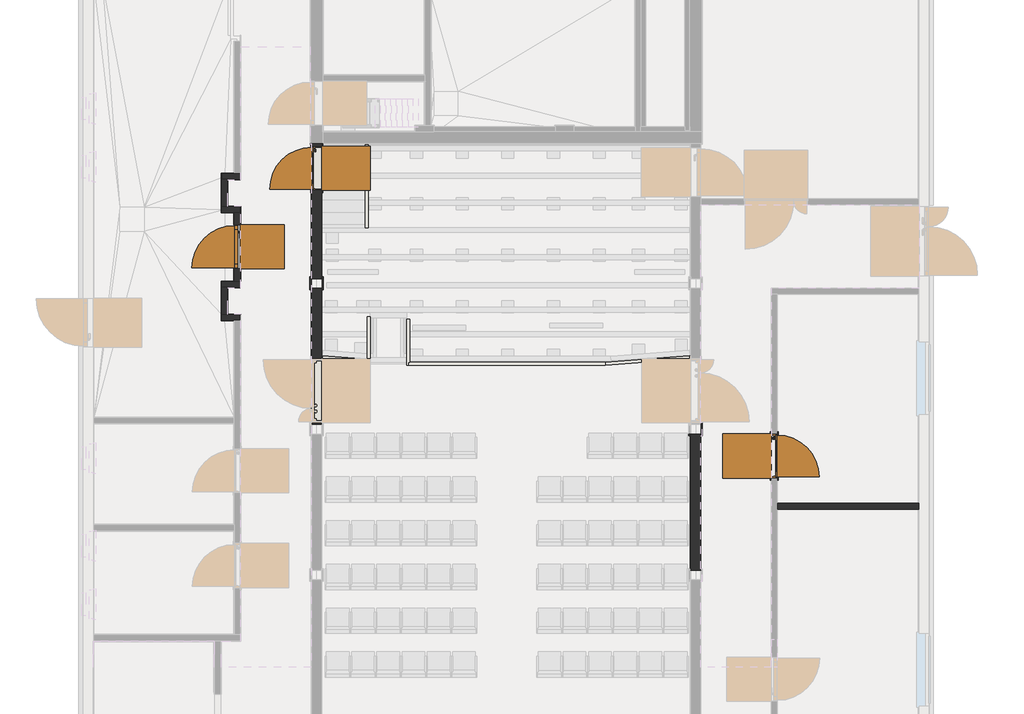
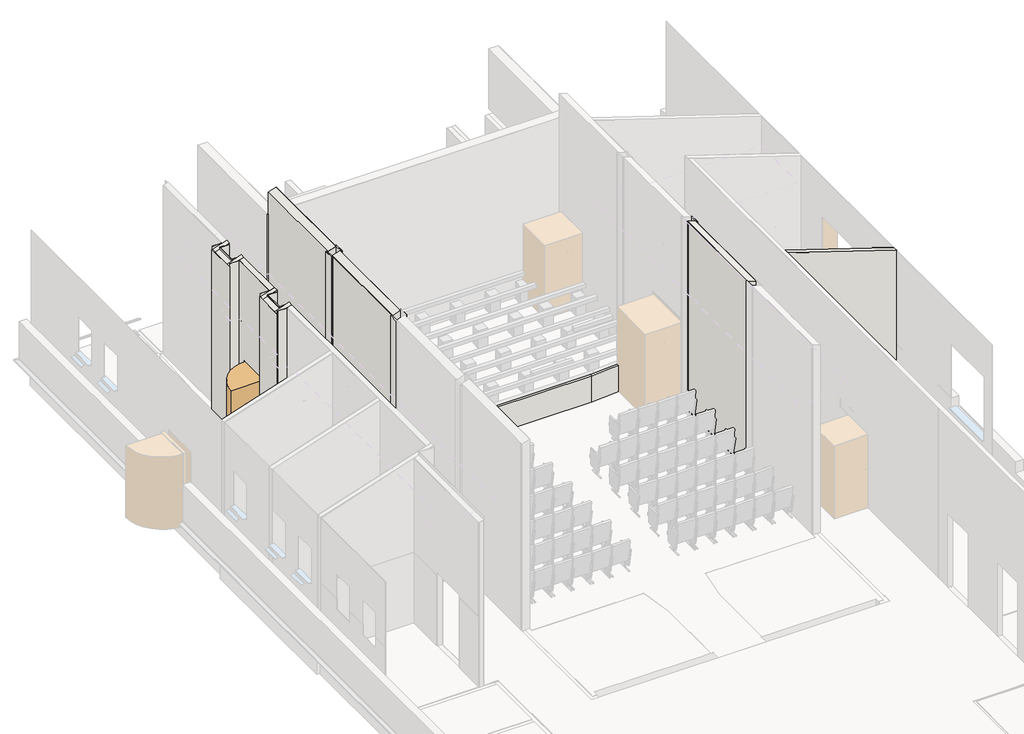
# One storey, part 7 of 12: 62 walls, 3 doors.
"""IFC4 building model written with IfcOpenShell, lengths in millimetres."""

from ifc_helpers import new_model, si_unit, frame, origin, origin_with_axes, place, context, project, spatial, polyline, outline, extrude, faceted_brep, transform, mapped, element, save
from components import door_dd1247db, door_42d30af5, door_3526fbcb

model = new_model("IFC4")

# Units and contexts
model_context = context("Model", 3, world=origin())
ifc_project = project(units=[si_unit("LENGTHUNIT", "METRE", prefix="MILLI")], contexts=[model_context])

# Site, building, storey
site = spatial("IfcSite", under=ifc_project)
building = spatial("IfcBuilding", under=site)
storey = spatial("IfcBuildingStorey", under=building, Name="Этаж 01", Elevation=0.0)

# Doors
placement = place(None, origin())
door_shape = door_dd1247db(model_context)
element("IfcDoor", 1, ObjectType="Дверь_Противопожарная_Металлическая_Однопольная_Глухая : 910 х 2100(h)_Пр_EI30", at=placement, inside=storey, context=model_context, shape_type="MappedRepresentation", body=[
    mapped(door_shape, transform((2865.2572865, 21754.92, 0.0), x_axis=(0.0, 1.0, 0.0), y_axis=(-1.0, 0.0, 0.0), z_axis=(0.0, 0.0, 1.0))),
])
door_2_shape = door_42d30af5(model_context)
element("IfcDoor", 2, ObjectType="Дверь_Деревянная_Внутренняя_Однопольная_ГОСТ_475-2016 : 0910 х 2070(h)_Пр_с Порогом", at=placement, inside=storey, context=model_context, shape_type="MappedRepresentation", body=[
    mapped(door_2_shape, transform((4496.8880762, 23370.0, 0.0), x_axis=(0.0, 1.0, 0.0), y_axis=(-1.0, 0.0, 0.0), z_axis=(0.0, 0.0, 1.0))),
])
door_3_shape = door_3526fbcb(model_context)
element("IfcDoor", 3, ObjectType="Дверь_Деревянная_Внутренняя_Однопольная_ГОСТ_475-2016 : 0910 х 2070(h)_Л_с Порогом", at=placement, inside=storey, context=model_context, shape_type="MappedRepresentation", body=[
    mapped(door_3_shape, transform((13920.675, 17449.9313142, 0.0), x_axis=(0.0, -1.0, 0.0), y_axis=(1.0, 0.0, 0.0), z_axis=(0.0, 0.0, 1.0))),
])

# Walls
element("IfcWall", 4, ObjectType="ADSK_Внутренняя_Кирпич_120", at=placement, inside=storey, context=model_context, shape_type="Brep", body=[
    faceted_brep([(2545.2572925, 20359.9176368, -25.0), (2545.2572925, 20359.9176368, 4707.6332555), (2665.2572925, 20359.9176368, 4746.6245521), (2925.2572865, 20359.9176368, 4831.1056928), (2925.2572865, 20359.9176368, -20.0), (2665.2572925, 20359.9176368, -20.0), (2605.2572925, 20359.9176368, -20.0), (2605.2572925, 20359.9176368, -25.0), (2545.2572925, 20239.9176368, 4707.6332555), (2545.2572925, 20239.9176368, -21.1091206), (2545.2572925, 20239.9176368, -25.0), (2805.2572865, 20239.9176368, -25.0), (2865.2572865, 20239.9176368, -25.0), (2865.2572865, 20239.9176368, -20.0), (2925.2572865, 20239.9176368, -20.0), (2925.2572865, 20239.9176368, 4831.1056928), (2805.2572865, 20239.9176368, 4792.1143962), (2605.2572925, 20299.9176368, -25.0), (2865.2572865, 20299.9176368, -25.0), (2865.2572865, 20299.9176368, -20.0), (2605.2572925, 20299.9176368, -20.0)], [[[0, 1, 2, 3, 4, 5, 6, 7]], [[8, 9, 10, 11, 12, 13, 14, 15, 16]], [[10, 0, 7, 17, 18, 12, 11]], [[3, 15, 14, 4]], [[1, 0, 10, 9, 8]], [[3, 2, 1, 8, 16, 15]], [[19, 20, 6, 5, 4, 14, 13]], [[19, 13, 12, 18]], [[20, 19, 18, 17]], [[6, 20, 17, 7]]]),
])
element("IfcWall", 5, ObjectType="ADSK_Внутренняя_Кирпич_120", at=placement, inside=storey, context=model_context, shape_type="Brep", body=[
    faceted_brep([(2665.2572925, 20359.9176368, -25.0), (2665.2572925, 20919.9176368, -25.0), (2665.2572925, 20919.9176368, -20.0), (2665.2572925, 20919.9176368, 4746.6245521), (2665.2572925, 20359.9176368, 4746.6245521), (2665.2572925, 20359.9176368, -20.0), (2545.2572925, 20359.9176368, -25.0), (2545.2572925, 20359.9176368, 4707.6332555), (2545.2572925, 20919.9176368, 4707.6332555), (2545.2572925, 20919.9176368, -25.0), (2605.2572925, 20359.9176368, -25.0), (2605.2572925, 20919.9176368, -25.0)], [[[0, 1, 2, 3, 4, 5]], [[6, 7, 8, 9]], [[1, 0, 10, 6, 9, 11]], [[0, 5, 4, 7, 6, 10]], [[3, 2, 1, 11, 9, 8]], [[4, 3, 8, 7]]]),
])
element("IfcWall", 6, ObjectType="ADSK_Внутренняя_Кирпич_120", at=placement, inside=storey, context=model_context, shape_type="Brep", body=[
    faceted_brep([(2545.2572925, 20919.9176368, 4707.6332555), (2545.2572925, 20919.9176368, -25.0), (2605.2572925, 20919.9176368, -25.0), (2605.2572925, 20919.9176368, -20.0), (2665.2572925, 20919.9176368, -20.0), (2925.2572865, 20919.9176368, -20.0), (2925.2572865, 20919.9176368, 4831.1056928), (2665.2572925, 20919.9176368, 4746.6245521), (2545.2572925, 21039.9176368, -25.0), (2545.2572925, 21039.9176368, -20.9060519), (2545.2572925, 21039.9176368, 4707.6332555), (2805.2572865, 21039.9176368, 4792.1143962), (2925.2572865, 21039.9176368, 4831.1056928), (2925.2572865, 21039.9176368, -20.0), (2865.2572865, 21039.9176368, -20.0), (2865.2572865, 21039.9176368, -25.0), (2805.2572865, 21039.9176368, -25.0), (2865.2572865, 20979.9176368, -25.0), (2605.2572925, 20979.9176368, -25.0), (2605.2572925, 20979.9176368, -20.0), (2865.2572865, 20979.9176368, -20.0)], [[[0, 1, 2, 3, 4, 5, 6, 7]], [[8, 9, 10, 11, 12, 13, 14, 15, 16]], [[1, 8, 16, 15, 17, 18, 2]], [[1, 0, 10, 9, 8]], [[12, 6, 5, 13]], [[0, 7, 6, 12, 11, 10]], [[19, 20, 14, 13, 5, 4, 3]], [[19, 3, 2, 18]], [[20, 19, 18, 17]], [[14, 20, 17, 15]]]),
])
element("IfcWall", 7, ObjectType="ADSK_Внутренняя_Кирпич_120", at=placement, inside=storey, context=model_context, shape_type="Brep", body=[
    faceted_brep([(2925.2572865, 21039.9176368, -25.0), (2925.2572865, 22459.9176629, -25.0), (2925.2572865, 22459.9176629, -20.0), (2925.2572865, 22459.9176629, 4831.1056928), (2925.2572865, 21039.9176368, 4831.1056928), (2925.2572865, 21039.9176368, -20.0), (2925.2572865, 21299.92, 2100.0), (2925.2572865, 22209.92, 2100.0), (2925.2572865, 22209.92, 0.0), (2925.2572865, 21299.92, 0.0), (2805.2572865, 22459.9176629, -25.0), (2805.2572865, 21039.9176368, -25.0), (2805.2572865, 21039.9176368, 0.0), (2805.2572865, 21039.9176368, 4792.1143962), (2805.2572865, 22459.9176629, 4792.1143962), (2805.2572865, 22459.9176629, 0.0), (2805.2572865, 22209.92, 2100.0), (2805.2572865, 21299.92, 2100.0), (2805.2572865, 21299.92, 0.0), (2805.2572865, 22209.92, 0.0), (2865.2572865, 21039.9176368, -25.0), (2865.2572865, 22459.9176629, -25.0)], [[[0, 1, 2, 3, 4, 5], [6, 7, 8, 9]], [[10, 11, 12, 13, 14, 15], [16, 17, 18, 19]], [[1, 0, 20, 11, 10, 21]], [[0, 5, 4, 13, 12, 11, 20]], [[3, 2, 1, 21, 10, 15, 14]], [[16, 7, 6, 17]], [[18, 9, 8, 19]], [[17, 6, 9, 18]], [[7, 16, 19, 8]], [[4, 3, 14, 13]]]),
])
element("IfcWall", 8, ObjectType="ADSK_Внутренняя_Кирпич_120", at=placement, inside=storey, context=model_context, shape_type="Brep", body=[
    faceted_brep([(2545.2572925, 22579.9176629, -25.0), (2545.2572925, 22579.9176629, 4707.6332555), (2665.2572925, 22579.9176629, 4746.6245521), (2925.2572865, 22579.9176629, 4831.1056928), (2925.2572865, 22579.9176629, -20.0), (2665.2572925, 22579.9176629, -20.0), (2605.2572925, 22579.9176629, -20.0), (2605.2572925, 22579.9176629, -25.0), (2545.2572925, 22459.9176629, 4707.6332555), (2545.2572925, 22459.9176629, -20.9060519), (2545.2572925, 22459.9176629, -25.0), (2805.2572865, 22459.9176629, -25.0), (2865.2572865, 22459.9176629, -25.0), (2865.2572865, 22459.9176629, -20.0), (2925.2572865, 22459.9176629, -20.0), (2925.2572865, 22459.9176629, 4831.1056928), (2805.2572865, 22459.9176629, 4792.1143962), (2605.2572925, 22519.9176629, -25.0), (2865.2572865, 22519.9176629, -25.0), (2865.2572865, 22519.9176629, -20.0), (2605.2572925, 22519.9176629, -20.0)], [[[0, 1, 2, 3, 4, 5, 6, 7]], [[8, 9, 10, 11, 12, 13, 14, 15, 16]], [[10, 0, 7, 17, 18, 12, 11]], [[3, 15, 14, 4]], [[1, 0, 10, 9, 8]], [[3, 2, 1, 8, 16, 15]], [[19, 20, 6, 5, 4, 14, 13]], [[19, 13, 12, 18]], [[20, 19, 18, 17]], [[6, 20, 17, 7]]]),
])
element("IfcWall", 9, ObjectType="ADSK_Внутренняя_Кирпич_120", at=placement, inside=storey, context=model_context, shape_type="Brep", body=[
    faceted_brep([(2665.2572925, 22579.9176629, -25.0), (2665.2572925, 23139.9176524, -25.0), (2665.2572925, 23139.9176524, -20.0), (2665.2572925, 23139.9176524, 4746.6245521), (2665.2572925, 22579.9176629, 4746.6245521), (2665.2572925, 22579.9176629, -20.0), (2545.2572925, 22579.9176629, -25.0), (2545.2572925, 22579.9176629, 4707.6332555), (2545.2572925, 23139.9176524, 4707.6332555), (2545.2572925, 23139.9176524, -25.0), (2605.2572925, 22579.9176629, -25.0), (2605.2572925, 23139.9176524, -25.0)], [[[0, 1, 2, 3, 4, 5]], [[6, 7, 8, 9]], [[1, 0, 10, 6, 9, 11]], [[0, 5, 4, 7, 6, 10]], [[3, 2, 1, 11, 9, 8]], [[4, 3, 8, 7]]]),
])
element("IfcWall", 10, ObjectType="ADSK_Внутренняя_Кирпич_120", at=placement, inside=storey, context=model_context, shape_type="Brep", body=[
    faceted_brep([(2545.2572925, 23139.9176524, 4707.6332555), (2545.2572925, 23139.9176524, -25.0), (2605.2572925, 23139.9176524, -25.0), (2605.2572925, 23139.9176524, -20.0), (2665.2572925, 23139.9176524, -20.0), (2925.2572865, 23139.9176524, -20.0), (2925.2572865, 23139.9176524, 4831.1056928), (2665.2572925, 23139.9176524, 4746.6245521), (2545.2572925, 23259.9176524, -25.0), (2545.2572925, 23259.9176524, -20.9643333), (2545.2572925, 23259.9176524, 4707.6332555), (2805.2572865, 23259.9176524, 4792.1143962), (2925.2572865, 23259.9176524, 4831.1056928), (2925.2572865, 23259.9176524, -20.0), (2865.2572865, 23259.9176524, -20.0), (2865.2572865, 23259.9176524, -25.0), (2805.2572865, 23259.9176524, -25.0), (2865.2572865, 23199.9176524, -25.0), (2605.2572925, 23199.9176524, -25.0), (2605.2572925, 23199.9176524, -20.0), (2865.2572865, 23199.9176524, -20.0)], [[[0, 1, 2, 3, 4, 5, 6, 7]], [[8, 9, 10, 11, 12, 13, 14, 15, 16]], [[1, 8, 16, 15, 17, 18, 2]], [[1, 0, 10, 9, 8]], [[12, 6, 5, 13]], [[0, 7, 6, 12, 11, 10]], [[19, 20, 14, 13, 5, 4, 3]], [[19, 3, 2, 18]], [[20, 19, 18, 17]], [[14, 20, 17, 15]]]),
])
element("IfcWall", 11, ObjectType="Перегородка-КНАУФ-С362-Применение внутри здания-125/75@600 ГВЛ(ГВЛВ)  12,5", at=placement, inside=storey, context=model_context, shape_type="Brep", body=[
    faceted_brep([(16900.0, 16349.9313142, 3848.1164919), (13980.0, 16349.9313142, 4796.9047088), (13980.0, 16349.9313142, -3.0), (16885.0, 16349.9313142, -3.0), (16885.0, 16349.9313142, 100.0), (16899.0, 16349.9313142, 100.0), (16900.0, 16349.9313142, 100.0), (13980.0, 16474.9313142, 4796.9047088), (16900.0, 16474.9313142, 3848.1164919), (16900.0, 16474.9313142, 100.0), (16885.0, 16474.9313142, 100.0), (16885.0, 16474.9313142, -3.0), (13980.0, 16474.9313142, -3.0)], [[[0, 1, 2, 3, 4, 5, 6]], [[7, 8, 9, 10, 11, 12]], [[1, 7, 12, 2]], [[4, 3, 11, 10]], [[1, 0, 8, 7]], [[3, 2, 12, 11]], [[8, 0, 6, 9]], [[6, 5, 4, 10, 9]]]),
])
element("IfcWall", 12, ObjectType="Перегородка-КНАУФ-С365-Применение внутри здания-200/75@600 ГВЛ(ГВЛВ)  12,5", at=placement, inside=storey, context=model_context, shape_type="Brep", body=[
    faceted_brep([(4395.0630762, 23875.0, -20.0), (4395.0630762, 21100.0, -20.0), (4395.0630762, 21100.0, 5308.6859716), (4395.0630762, 21132.75, 5308.6859716), (4395.0630762, 23875.0, 5308.6859716), (4395.0630762, 23875.0, 0.0), (4395.0630762, 23825.0, 0.0), (4395.0630762, 23825.0, 2070.0), (4395.0630762, 22915.0, 2070.0), (4395.0630762, 22915.0, 0.0), (4605.0630762, 21100.0, -20.0), (4605.0630762, 23875.0, -20.0), (4605.0630762, 23875.0, 5376.9207407), (4605.0630762, 23870.0, 5376.9207407), (4605.0630762, 21132.75, 5376.9207407), (4605.0630762, 21100.0, 5376.9207407), (4605.0630762, 23825.0, 2070.0), (4605.0630762, 23825.0, 0.0), (4605.0630762, 22915.0, 0.0), (4605.0630762, 22915.0, 2070.0)], [[[0, 1, 2, 3, 4, 5], [6, 7, 8, 9]], [[10, 11, 12, 13, 14, 15], [16, 17, 18, 19]], [[1, 0, 11, 10]], [[2, 1, 10, 15]], [[0, 5, 4, 12, 11]], [[6, 17, 16, 7]], [[7, 16, 19, 8]], [[8, 19, 18, 9]], [[17, 6, 9, 18]], [[4, 3, 2, 15, 14, 13, 12]]]),
])
element("IfcWall", 13, ObjectType="Перегородка-КНАУФ-С365-Применение внутри здания-200/75@600 ГВЛ(ГВЛВ)  12,5", at=placement, inside=storey, context=model_context, shape_type="Brep", body=[
    faceted_brep([(4395.0630762, 20900.0, -20.0), (4395.0630762, 18100.0, -20.0), (4395.0630762, 18100.0, 5308.6859716), (4395.0630762, 20900.0, 5308.6859716), (4395.0630762, 18137.3933894, 2370.0), (4395.0630762, 18137.3933894, 0.0), (4395.0630762, 19447.3933894, 0.0), (4395.0630762, 19447.3933894, 2370.0), (4605.0630762, 18100.0, -20.0), (4605.0630762, 19447.0274627, -20.0), (4605.0630762, 19507.1879309, -20.0), (4605.0630762, 20900.0, -20.0), (4605.0630762, 20900.0, 5376.9207407), (4605.0630762, 20866.75, 5376.9207407), (4605.0630762, 18132.5, 5376.9207407), (4605.0630762, 18100.0, 5376.9207407), (4605.0630762, 18137.3933894, 0.0), (4605.0630762, 18137.3933894, 2370.0), (4605.0630762, 19447.3933894, 2370.0), (4605.0630762, 19447.3933894, 0.0)], [[[0, 1, 2, 3], [4, 5, 6, 7]], [[8, 9, 10, 11, 12, 13, 14, 15], [16, 17, 18, 19]], [[1, 0, 11, 10, 9, 8]], [[2, 1, 8, 15]], [[0, 3, 12, 11]], [[16, 5, 4, 17]], [[17, 4, 7, 18]], [[18, 7, 6, 19]], [[5, 16, 19, 6]], [[3, 2, 15, 14, 13, 12]]]),
])
element("IfcWall", 14, ObjectType="Перегородка-КНАУФ-С365-Применение внутри здания-200/75@600 ГВЛ(ГВЛВ)  12,5", at=placement, inside=storey, context=model_context, shape_type="SweptSolid", body=[
    extrude(outline(polyline([(5376.9002455, 12195.0), (-20.0, 12195.0), (-20.0, 12405.0), (5308.6654765, 12405.0), (5376.9002455, 12195.0)])), frame((0.0, 15100.0, 0.0), z_axis=(0.0, 1.0, 0.0), x_axis=(0.0, 0.0, 1.0)), (0.0, 0.0, 1.0), 2800.0),
])
element("IfcWall", 15, ObjectType="Брус 60 х 75", at=placement, inside=storey, context=model_context, shape_type="Brep", body=[
    faceted_brep([(4605.0630762, 19447.0274627, -20.0), (5604.6696214, 19373.8709302, -20.0), (5604.6696214, 19373.8709302, 740.0), (4605.0630762, 19447.0274627, 740.0), (4605.0630762, 19507.1879309, -20.0), (4605.0630762, 19507.1879309, 740.0), (5544.6696214, 19438.422518, 740.0), (5604.6696214, 19434.0313984, 740.0), (5604.6696214, 19434.0313984, -20.0), (5544.6696214, 19438.422518, -20.0)], [[[0, 1, 2, 3]], [[4, 5, 6, 7, 8, 9]], [[1, 0, 4, 9, 8]], [[3, 2, 7, 6, 5]], [[0, 3, 5, 4]], [[2, 1, 8, 7]]]),
])
element("IfcWall", 16, ObjectType="Брус 60 х 75", at=placement, inside=storey, context=model_context, shape_type="SweptSolid", body=[
    extrude(outline(polyline([(5604.6696214, 20319.6150334), (5604.6696214, 19434.0313984), (5544.6696214, 19438.422518), (5544.6696214, 20319.6150334), (5604.6696214, 20319.6150334)])), frame((0.0, 0.0, -20.0), z_axis=(0.0, 0.0, 1.0), x_axis=(1.0, 0.0, 0.0)), (0.0, 0.0, 1.0), 760.0),
])
element("IfcWall", 17, ObjectType="Брус 60 х 75", at=placement, inside=storey, context=model_context, shape_type="SweptSolid", body=[
    extrude(outline(polyline([(6355.0633878, 19320.0001181), (6355.0633878, 20259.6150334), (6415.0633878, 20259.6150334), (6415.0633878, 19380.0001181), (6385.0633878, 19380.0001181), (6385.0633878, 19320.0001181), (6355.0633878, 19320.0001181)])), frame((0.0, 0.0, -20.0), z_axis=(0.0, 0.0, 1.0), x_axis=(1.0, 0.0, 0.0)), (0.0, 0.0, 1.0), 760.0),
])
element("IfcWall", 18, ObjectType="Брус 60 х 75", at=placement, inside=storey, context=model_context, shape_type="Brep", body=[
    faceted_brep([(6385.0633878, 19320.0001181, -20.0), (10445.0633878, 19320.0001181, -20.0), (10445.0633878, 19320.0001181, 0.0), (10444.7461218, 19320.0001181, 0.0), (10444.7461218, 19320.0001181, 740.0), (6385.0633878, 19320.0001181, 740.0), (10445.0633878, 19380.0001181, -20.0), (6415.0633878, 19380.0001181, -20.0), (6385.0633878, 19380.0001181, -20.0), (6385.0633878, 19380.0001181, 740.0), (6415.0633878, 19380.0001181, 740.0), (10445.0633878, 19380.0001181, 740.0), (10445.0633878, 19379.0003016, 740.0), (10445.0633878, 19379.0003016, 0.0), (10440.4000484, 19378.6547669, 740.0), (10440.4000484, 19378.6547669, 0.0)], [[[0, 1, 2, 3, 4, 5]], [[6, 7, 8, 9, 10, 11]], [[1, 0, 8, 7, 6]], [[6, 11, 12, 13, 2, 1]], [[11, 10, 9, 5, 4, 14, 12]], [[0, 5, 9, 8]], [[14, 15, 13, 12]], [[13, 15, 3, 2]], [[15, 14, 4, 3]]]),
])
element("IfcWall", 19, ObjectType="Брус 60 х 75", at=placement, inside=storey, context=model_context, shape_type="Brep", body=[
    faceted_brep([(10444.8336528, 19318.8187982, 0.0), (12185.0630762, 19447.7627939, 0.0), (12185.0630762, 19447.7627939, 740.0), (10444.8336528, 19318.8187982, 740.0), (10440.4000484, 19378.6547669, 0.0), (10440.4000484, 19378.6547669, 740.0), (10445.0633878, 19379.0003016, 740.0), (12180.6294718, 19507.5987626, 740.0), (12180.6294718, 19507.5987626, 0.0), (10445.0633878, 19379.0003016, 0.0), (10444.7461218, 19320.0001181, 0.0), (10444.7461218, 19320.0001181, 740.0)], [[[0, 1, 2, 3]], [[4, 5, 6, 7, 8, 9]], [[1, 0, 10, 4, 9, 8]], [[2, 1, 8, 7]], [[3, 2, 7, 6, 5, 11]], [[0, 3, 11, 5, 4, 10]]]),
])
element("IfcWall", 20, ObjectType="Брус 60 х 75", at=placement, inside=storey, context=model_context, shape_type="Brep", body=[
    faceted_brep([(5505.0, 23875.0, -20.0), (5505.0, 22150.0, -20.0), (5505.0, 22150.0, 740.0), (5505.0, 22210.0, 740.0), (5505.0, 23875.0, 740.0), (5565.0, 22150.0, -20.0), (5565.0, 23875.0, -20.0), (5565.0, 23875.0, 740.0), (5565.0, 22150.0, 740.0)], [[[0, 1, 2, 3, 4]], [[5, 6, 7, 8]], [[1, 0, 6, 5]], [[1, 5, 8, 2]], [[6, 0, 4, 7]], [[3, 2, 8, 7, 4]]]),
])
element("IfcWall", 21, ObjectType="Отделка - Акриловая покраска_1 мм_Улучш. штук. по кирп._9 мм", at=placement, inside=storey, context=model_context, shape_type="Brep", body=[
    faceted_brep([(2545.2572925, 20229.9176368, 0.0), (2545.2572925, 20239.9176368, 0.0), (2545.2572925, 21039.9176368, 0.0), (2545.2572925, 21049.9176368, 0.0), (2545.2572925, 21049.9176368, 4707.6332555), (2545.2572925, 20229.9176368, 4707.6332555), (2535.2572925, 20229.9176368, 0.0), (2535.2572925, 20229.9176368, 4704.3839808), (2535.2572925, 21049.9176368, 4704.3839808), (2535.2572925, 21049.9176368, 0.0)], [[[0, 1, 2, 3, 4, 5]], [[6, 7, 8, 9]], [[3, 2, 1, 0, 6, 9]], [[4, 3, 9, 8]], [[0, 5, 7, 6]], [[5, 4, 8, 7]]]),
])
element("IfcWall", 22, ObjectType="Отделка - Акриловая покраска_1 мм_Улучш. штук. по кирп._9 мм", at=placement, inside=storey, context=model_context, shape_type="Brep", body=[
    faceted_brep([(2545.2572925, 22449.9176629, 0.0), (2545.2572925, 22459.9176629, 0.0), (2545.2572925, 23259.9176524, 0.0), (2545.2572925, 23269.9176524, 0.0), (2545.2572925, 23269.9176524, 4707.6332555), (2545.2572925, 22449.9176629, 4707.6332555), (2535.2572925, 22449.9176629, 0.0), (2535.2572925, 22449.9176629, 4704.3839808), (2535.2572925, 23269.9176524, 4704.3839808), (2535.2572925, 23269.9176524, 0.0)], [[[0, 1, 2, 3, 4, 5]], [[6, 7, 8, 9]], [[3, 2, 1, 0, 6, 9]], [[4, 3, 9, 8]], [[0, 5, 7, 6]], [[5, 4, 8, 7]]]),
])
element("IfcWall", 23, ObjectType="Отделка - Акриловая покраска_1 мм_Улучш. штук. по кирп._9 мм", at=placement, inside=storey, context=model_context, shape_type="Brep", body=[
    faceted_brep([(2805.2572865, 22459.9176629, 4792.1143962), (2805.2572865, 21039.9176368, 4792.1143962), (2805.2572865, 21039.9176368, 0.0), (2805.2572865, 21299.92, 0.0), (2805.2572865, 21299.92, 2100.0), (2805.2572865, 22209.92, 2100.0), (2805.2572865, 22209.92, 0.0), (2805.2572865, 22459.9176629, 0.0), (2795.2572865, 21039.9176368, 4788.8651214), (2795.2572865, 22459.9176629, 4788.8651214), (2795.2572865, 22459.9176629, 0.0), (2795.2572865, 22449.9176629, 0.0), (2795.2572865, 22209.92, 0.0), (2795.2572865, 22209.92, 2100.0), (2795.2572865, 21299.92, 2100.0), (2795.2572865, 21299.92, 0.0), (2795.2572865, 21049.9176368, 0.0), (2795.2572865, 21039.9176368, 0.0)], [[[0, 1, 2, 3, 4, 5, 6, 7]], [[8, 9, 10, 11, 12, 13, 14, 15, 16, 17]], [[10, 7, 6, 12, 11]], [[2, 17, 16, 15, 3]], [[1, 0, 9, 8]], [[0, 7, 10, 9]], [[2, 1, 8, 17]], [[13, 5, 4, 14]], [[14, 4, 3, 15]], [[5, 13, 12, 6]]]),
])
element("IfcWall", 24, ObjectType="Отделка - Акриловая покраска_1 мм_Улучш. штук. по кирп._9 мм", at=placement, inside=storey, context=model_context, shape_type="Brep", body=[
    faceted_brep([(2795.2572865, 20239.9176368, 0.0), (2545.2572925, 20239.9176368, 0.0), (2545.2572925, 20239.9176368, 4792.1143962), (2795.2572865, 20239.9176368, 4792.1143962), (2795.2572865, 20239.9176368, 4788.8651214), (2795.2572865, 20229.9176368, 0.0), (2795.2572865, 20229.9176368, 4792.1143962), (2545.2572925, 20229.9176368, 4792.1143962), (2545.2572925, 20229.9176368, 4707.6332555), (2545.2572925, 20229.9176368, 0.0)], [[[0, 1, 2, 3, 4]], [[5, 6, 7, 8, 9]], [[1, 0, 5, 9]], [[3, 2, 7, 6]], [[0, 4, 3, 6, 5]], [[2, 1, 9, 8, 7]]]),
])
element("IfcWall", 25, ObjectType="Отделка - Акриловая покраска_1 мм_Улучш. штук. по кирп._9 мм", at=placement, inside=storey, context=model_context, shape_type="Brep", body=[
    faceted_brep([(2545.2572925, 21039.9176368, 0.0), (2795.2572865, 21039.9176368, 0.0), (2795.2572865, 21039.9176368, 4788.8651214), (2795.2572865, 21039.9176368, 4792.1143962), (2545.2572925, 21039.9176368, 4792.1143962), (2545.2572925, 21049.9176368, 0.0), (2545.2572925, 21049.9176368, 4707.6332555), (2545.2572925, 21049.9176368, 4792.1143962), (2795.2572865, 21049.9176368, 4792.1143962), (2795.2572865, 21049.9176368, 0.0)], [[[0, 1, 2, 3, 4]], [[5, 6, 7, 8, 9]], [[1, 0, 5, 9]], [[4, 3, 8, 7]], [[3, 2, 1, 9, 8]], [[0, 4, 7, 6, 5]]]),
])
element("IfcWall", 26, ObjectType="Отделка - Акриловая покраска_1 мм_Улучш. штук. по кирп._9 мм", at=placement, inside=storey, context=model_context, shape_type="Brep", body=[
    faceted_brep([(2795.2572865, 22459.9176629, 0.0), (2545.2572925, 22459.9176629, 0.0), (2545.2572925, 22459.9176629, 4792.1143962), (2795.2572865, 22459.9176629, 4792.1143962), (2795.2572865, 22459.9176629, 4788.8651214), (2795.2572865, 22449.9176629, 0.0), (2795.2572865, 22449.9176629, 4792.1143962), (2545.2572925, 22449.9176629, 4792.1143962), (2545.2572925, 22449.9176629, 4707.6332555), (2545.2572925, 22449.9176629, 0.0)], [[[0, 1, 2, 3, 4]], [[5, 6, 7, 8, 9]], [[1, 0, 5, 9]], [[3, 2, 7, 6]], [[2, 1, 9, 8, 7]], [[0, 4, 3, 6, 5]]]),
])
element("IfcWall", 27, ObjectType="Отделка - Акриловая покраска_1 мм_Улучш. штук. по кирп._9 мм", at=placement, inside=storey, context=model_context, shape_type="Brep", body=[
    faceted_brep([(2545.2572925, 23259.9176524, 0.0), (2795.2572865, 23259.9176524, 0.0), (2795.2572865, 23259.9176524, 4788.8651214), (2795.2572865, 23259.9176524, 4792.1143962), (2545.2572925, 23259.9176524, 4792.1143962), (2545.2572925, 23269.9176524, 0.0), (2545.2572925, 23269.9176524, 4707.6332555), (2545.2572925, 23269.9176524, 4792.1143962), (2795.2572865, 23269.9176524, 4792.1143962), (2795.2572865, 23269.9176524, 0.0)], [[[0, 1, 2, 3, 4]], [[5, 6, 7, 8, 9]], [[1, 0, 5, 9]], [[4, 3, 8, 7]], [[3, 2, 1, 9, 8]], [[0, 4, 7, 6, 5]]]),
])
element("IfcWall", 28, ObjectType="Отделка - Акриловая покраска_1 мм_Улучш. штук. по кирп._9 мм", at=placement, inside=storey, context=model_context, shape_type="Brep", body=[
    faceted_brep([(2935.2572865, 22589.9176629, 4792.1143962), (2935.2572865, 21044.9176368, 4792.1143962), (2935.2572865, 21044.9176368, 0.0), (2935.2572865, 21299.92, 0.0), (2935.2572865, 21299.92, 2100.0), (2935.2572865, 22209.92, 2100.0), (2935.2572865, 22209.92, 0.0), (2935.2572865, 22589.9176629, 0.0), (2925.2572865, 21044.9176368, 4792.1143962), (2925.2572865, 22579.9176629, 4792.1143962), (2925.2572865, 22589.9176629, 4792.1143962), (2925.2572865, 22589.9176629, 0.0), (2925.2572865, 22579.9176629, 0.0), (2925.2572865, 22209.92, 0.0), (2925.2572865, 22209.92, 2100.0), (2925.2572865, 21299.92, 2100.0), (2925.2572865, 21299.92, 0.0), (2925.2572865, 21044.9176368, 0.0)], [[[0, 1, 2, 3, 4, 5, 6, 7]], [[8, 9, 10, 11, 12, 13, 14, 15, 16, 17]], [[2, 17, 16, 3]], [[11, 7, 6, 13, 12]], [[1, 0, 10, 9, 8]], [[2, 1, 8, 17]], [[0, 7, 11, 10]], [[14, 5, 4, 15]], [[15, 4, 3, 16]], [[5, 14, 13, 6]]]),
])
element("IfcWall", 29, ObjectType="Отделка - Акриловая покраска_1 мм_Улучш. штук. по кирп._9 мм", at=placement, inside=storey, context=model_context, shape_type="SweptSolid", body=[
    extrude(outline(polyline([(2925.2572865, 22579.9176629), (2675.2572925, 22579.9176629), (2675.2572925, 22589.9176629), (2925.2572865, 22589.9176629), (2925.2572865, 22579.9176629)])), origin_with_axes(), (0.0, 0.0, 1.0), 4792.1143962),
])
element("IfcWall", 30, ObjectType="Отделка - Акриловая покраска_1 мм_Улучш. штук. по кирп._9 мм", at=placement, inside=storey, context=model_context, shape_type="SweptSolid", body=[
    extrude(outline(polyline([(2675.2572925, 23139.9176524), (2925.2572865, 23139.9176524), (2925.2572865, 23129.9176524), (2675.2572925, 23129.9176524), (2675.2572925, 23139.9176524)])), origin_with_axes(), (0.0, 0.0, 1.0), 4792.1143962),
])
element("IfcWall", 31, ObjectType="Отделка - Акриловая покраска_1 мм_Улучш. штук. по кирп._9 мм", at=placement, inside=storey, context=model_context, shape_type="Brep", body=[
    faceted_brep([(2675.2572925, 22579.9176629, 0.0), (2675.2572925, 22589.9176629, 0.0), (2675.2572925, 23129.9176524, 0.0), (2675.2572925, 23139.9176524, 0.0), (2675.2572925, 23139.9176524, 4792.1143962), (2675.2572925, 23129.9176524, 4792.1143962), (2675.2572925, 22589.9176629, 4792.1143962), (2675.2572925, 22579.9176629, 4792.1143962), (2665.2572925, 22579.9176629, 0.0), (2665.2572925, 22579.9176629, 4792.1143962), (2665.2572925, 23139.9176524, 4792.1143962), (2665.2572925, 23139.9176524, 0.0)], [[[0, 1, 2, 3, 4, 5, 6, 7]], [[8, 9, 10, 11]], [[3, 2, 1, 0, 8, 11]], [[7, 6, 5, 4, 10, 9]], [[0, 7, 9, 8]], [[4, 3, 11, 10]]]),
])
element("IfcWall", 32, ObjectType="Отделка - Акриловая покраска_1 мм_Улучш. штук. по кирп._9 мм", at=placement, inside=storey, context=model_context, shape_type="Brep", body=[
    faceted_brep([(2675.2572925, 20359.9176473, 0.0), (2925.2572865, 20359.9176473, 0.0), (2935.2572865, 20359.9176473, 0.0), (2935.2572865, 20359.9176473, 4792.1143962), (2925.2572865, 20359.9176473, 4792.1143962), (2675.2572925, 20359.9176473, 4792.1143962), (2675.2572925, 20369.9176473, 0.0), (2675.2572925, 20369.9176473, 4792.1143962), (2935.2572865, 20369.9176473, 4792.1143962), (2935.2572865, 20369.9176473, 0.0)], [[[0, 1, 2, 3, 4, 5]], [[6, 7, 8, 9]], [[2, 1, 0, 6, 9]], [[5, 4, 3, 8, 7]], [[0, 5, 7, 6]], [[3, 2, 9, 8]]]),
])
element("IfcWall", 33, ObjectType="Отделка - Акриловая покраска_1 мм_Улучш. штук. по кирп._9 мм", at=placement, inside=storey, context=model_context, shape_type="SweptSolid", body=[
    extrude(outline(polyline([(2675.2572925, 20919.9176368), (2930.2572865, 20919.9176368), (2930.2572865, 20909.9176368), (2675.2572925, 20909.9176368), (2675.2572925, 20919.9176368)])), origin_with_axes(), (0.0, 0.0, 1.0), 4792.1143962),
])
element("IfcWall", 34, ObjectType="Отделка - Акриловая покраска_1 мм_Улучш. штук. по кирп._9 мм", at=placement, inside=storey, context=model_context, shape_type="Brep", body=[
    faceted_brep([(2675.2572925, 20359.9176368, 0.0), (2675.2572925, 20369.9176473, 0.0), (2675.2572925, 20909.9176368, 0.0), (2675.2572925, 20919.9176368, 0.0), (2675.2572925, 20919.9176368, 4792.1143962), (2675.2572925, 20909.9176368, 4792.1143962), (2675.2572925, 20369.9176473, 4792.1143962), (2675.2572925, 20359.9176368, 4792.1143962), (2665.2572925, 20359.9176368, 0.0), (2665.2572925, 20359.9176368, 4792.1143962), (2665.2572925, 20919.9176368, 4792.1143962), (2665.2572925, 20919.9176368, 0.0)], [[[0, 1, 2, 3, 4, 5, 6, 7]], [[8, 9, 10, 11]], [[3, 2, 1, 0, 8, 11]], [[7, 6, 5, 4, 10, 9]], [[0, 7, 9, 8]], [[4, 3, 11, 10]]]),
])
element("IfcWall", 35, ObjectType="Отделка - Акриловая покраска по Кнауф-суперлистам_1 мм", at=placement, inside=storey, context=model_context, shape_type="Brep", body=[
    faceted_brep([(13981.0, 16474.9313142, 0.0), (16885.0, 16474.9313142, 0.0), (16885.0, 16474.9313142, 100.0), (16900.0, 16474.9313142, 100.0), (16900.0, 16474.9313142, 3848.1164919), (13981.0, 16474.9313142, 4796.5797813), (13981.0, 16475.9313142, 0.0), (13981.0, 16475.9313142, 4796.5797813), (16900.0, 16475.9313142, 3848.1164919), (16900.0, 16475.9313142, 100.0), (16899.0, 16475.9313142, 100.0), (16885.0, 16475.9313142, 100.0), (16885.0, 16475.9313142, 0.0)], [[[0, 1, 2, 3, 4, 5]], [[6, 7, 8, 9, 10, 11, 12]], [[1, 0, 6, 12]], [[9, 3, 2, 11, 10]], [[2, 1, 12, 11]], [[3, 9, 8, 4]], [[5, 4, 8, 7]], [[0, 5, 7, 6]]]),
])
element("IfcWall", 36, ObjectType="Отделка - Акриловая покраска по Кнауф-суперлистам_1 мм", at=placement, inside=storey, context=model_context, shape_type="Brep", body=[
    faceted_brep([(16885.0, 16349.9313142, 0.0), (13980.0, 16349.9313142, 0.0), (13980.0, 16349.9313142, 4796.9047088), (16900.0, 16349.9313142, 3848.1164919), (16900.0, 16349.9313142, 100.0), (16885.0, 16349.9313142, 100.0), (16885.0, 16348.9313142, 0.0), (16885.0, 16348.9313142, 100.0), (16900.0, 16348.9313142, 100.0), (16900.0, 16348.9313142, 3848.1164919), (13981.0, 16348.9313142, 4796.5797813), (13980.0, 16348.9313142, 4796.9047088), (13980.0, 16348.9313142, 0.0), (13981.0, 16348.9313142, 0.0)], [[[0, 1, 2, 3, 4, 5]], [[6, 7, 8, 9, 10, 11, 12, 13]], [[1, 0, 6, 13, 12]], [[4, 8, 7, 5]], [[0, 5, 7, 6]], [[3, 9, 8, 4]], [[3, 2, 11, 10, 9]], [[2, 1, 12, 11]]]),
])
element("IfcWall", 37, ObjectType="Облицовка КНАУФ 12,5", at=placement, inside=storey, context=model_context, shape_type="Brep", body=[
    faceted_brep([(12161.9999997, 17867.5, 0.0), (12195.0, 17867.5, 0.0), (12195.0, 17867.5, 5376.9002455), (12161.9999997, 17867.5, 5387.6228521), (12161.9999997, 17892.5, 0.0), (12161.9999997, 17892.5, 5387.6228521), (12186.9999997, 17892.5, 5379.4996654), (12195.0, 17892.5, 5376.9002455), (12195.0, 17892.5, 0.0), (12186.9999997, 17892.5, 0.0)], [[[0, 1, 2, 3]], [[4, 5, 6, 7, 8, 9]], [[1, 0, 4, 9, 8]], [[2, 1, 8, 7]], [[0, 3, 5, 4]], [[3, 2, 7, 6, 5]]]),
])
element("IfcWall", 38, ObjectType="Облицовка КНАУФ 12,5", at=placement, inside=storey, context=model_context, shape_type="Brep", body=[
    faceted_brep([(12413.0000003, 18107.5, 0.0), (12413.0000003, 17892.5, 0.0), (12413.0000003, 17867.5, 0.0), (12413.0000003, 17867.5, 5306.0660566), (12413.0000003, 17892.5, 5306.0660566), (12413.0000003, 18107.5, 5306.0660566), (12438.0000003, 18107.5, 0.0), (12438.0000003, 18107.5, 5297.9428698), (12438.0000003, 17867.5, 5297.9428698), (12438.0000003, 17867.5, 0.0)], [[[0, 1, 2, 3, 4, 5]], [[6, 7, 8, 9]], [[2, 1, 0, 6, 9]], [[3, 2, 9, 8]], [[0, 5, 7, 6]], [[5, 4, 3, 8, 7]]]),
])
element("IfcWall", 39, ObjectType="Облицовка КНАУФ 12,5", at=placement, inside=storey, context=model_context, shape_type="SweptSolid", body=[
    extrude(outline(polyline([(0.0, 12413.0000003), (5306.0660566, 12413.0000003), (5308.6654765, 12405.0), (0.0, 12405.0), (0.0, 12413.0000003)])), frame((0.0, 17867.5, 0.0), z_axis=(0.0, 1.0, 0.0), x_axis=(0.0, 0.0, 1.0)), (0.0, 0.0, 1.0), 25.0),
])
element("IfcWall", 40, ObjectType="Облицовка КНАУФ 12,5", at=placement, inside=storey, context=model_context, shape_type="Brep", body=[
    faceted_brep([(4395.0630762, 21132.75, 0.0), (4362.0630759, 21132.75, 0.0), (4362.0630759, 21132.75, 5297.963365), (4395.0630762, 21132.75, 5308.6859716), (4395.0630762, 21107.75, 0.0), (4395.0630762, 21107.75, 5308.6859716), (4387.0630759, 21107.75, 5306.0865518), (4362.0630759, 21107.75, 5297.963365), (4362.0630759, 21107.75, 0.0), (4387.0630759, 21107.75, 0.0)], [[[0, 1, 2, 3]], [[4, 5, 6, 7, 8, 9]], [[1, 0, 4, 9, 8]], [[0, 3, 5, 4]], [[2, 1, 8, 7]], [[3, 2, 7, 6, 5]]]),
])
element("IfcWall", 41, ObjectType="Облицовка КНАУФ 12,5", at=placement, inside=storey, context=model_context, shape_type="SweptSolid", body=[
    extrude(outline(polyline([(5297.963365, 4362.0630759), (0.0, 4362.0630759), (0.0, 4387.0630759), (5306.0865518, 4387.0630759), (5297.963365, 4362.0630759)])), frame((0.0, 20892.75, 0.0), z_axis=(0.0, 1.0, 0.0), x_axis=(0.0, 0.0, 1.0)), (0.0, 0.0, 1.0), 215.0),
])
element("IfcWall", 42, ObjectType="Облицовка КНАУФ 12,5", at=placement, inside=storey, context=model_context, shape_type="Brep", body=[
    faceted_brep([(4362.0630759, 20867.75, 0.0), (4395.0630762, 20867.75, 0.0), (4395.0630762, 20867.75, 5308.6859716), (4362.0630759, 20867.75, 5297.963365), (4362.0630759, 20892.75, 0.0), (4362.0630759, 20892.75, 5297.963365), (4387.0630759, 20892.75, 5306.0865518), (4395.0630762, 20892.75, 5308.6859716), (4395.0630762, 20892.75, 0.0), (4387.0630759, 20892.75, 0.0)], [[[0, 1, 2, 3]], [[4, 5, 6, 7, 8, 9]], [[1, 0, 4, 9, 8]], [[2, 1, 8, 7]], [[0, 3, 5, 4]], [[3, 2, 7, 6, 5]]]),
])
element("IfcWall", 43, ObjectType="Облицовка КНАУФ 12,5", at=placement, inside=storey, context=model_context, shape_type="Brep", body=[
    faceted_brep([(4605.0630762, 21107.75, 0.0), (4613.0630765, 21107.75, 0.0), (4638.0630765, 21107.75, 0.0), (4638.0630765, 21107.75, 5387.6433473), (4613.0630765, 21107.75, 5379.5201605), (4605.0630762, 21107.75, 5376.9207407), (4605.0630762, 21132.75, 0.0), (4605.0630762, 21132.75, 5376.9207407), (4638.0630765, 21132.75, 5387.6433473), (4638.0630765, 21132.75, 0.0)], [[[0, 1, 2, 3, 4, 5]], [[6, 7, 8, 9]], [[2, 1, 0, 6, 9]], [[0, 5, 7, 6]], [[3, 2, 9, 8]], [[5, 4, 3, 8, 7]]]),
])
element("IfcWall", 44, ObjectType="Облицовка КНАУФ 12,5", at=placement, inside=storey, context=model_context, shape_type="Brep", body=[
    faceted_brep([(4613.0630765, 21107.75, 0.0), (4613.0630765, 20892.75, 0.0), (4613.0630765, 20867.75, 0.0), (4613.0630765, 20867.75, 5379.5201605), (4613.0630765, 20892.75, 5379.5201605), (4613.0630765, 21107.75, 5379.5201605), (4638.0630765, 21107.75, 0.0), (4638.0630765, 21107.75, 5387.6433473), (4638.0630765, 20867.75, 5387.6433473), (4638.0630765, 20867.75, 0.0)], [[[0, 1, 2, 3, 4, 5]], [[6, 7, 8, 9]], [[2, 1, 0, 6, 9]], [[3, 2, 9, 8]], [[0, 5, 7, 6]], [[5, 4, 3, 8, 7]]]),
])
element("IfcWall", 45, ObjectType="Облицовка КНАУФ 12,5", at=placement, inside=storey, context=model_context, shape_type="SweptSolid", body=[
    extrude(outline(polyline([(0.0, 4613.0630765), (5379.5201605, 4613.0630765), (5376.9207407, 4605.0630762), (0.0, 4605.0630762), (0.0, 4613.0630765)])), frame((0.0, 20867.75, 0.0), z_axis=(0.0, 1.0, 0.0), x_axis=(0.0, 0.0, 1.0)), (0.0, 0.0, 1.0), 25.0),
])
element("IfcWall", 46, ObjectType="Отделка - Акриловая покраска_1 мм_Улучш. штук. по кирп._9 мм", at=placement, inside=storey, context=model_context, shape_type="Brep", body=[
    faceted_brep([(4394.0630762, 23875.0, 0.0), (4375.0, 23875.0, 0.0), (4365.0, 23875.0, 0.0), (4365.0, 23875.0, 4695.0), (4375.0, 23875.0, 4695.0), (4394.0630762, 23875.0, 4695.0), (4394.0630762, 23865.0, 0.0), (4394.0630762, 23865.0, 4695.0), (4365.0, 23865.0, 4695.0), (4365.0, 23865.0, 0.0)], [[[0, 1, 2, 3, 4, 5]], [[6, 7, 8, 9]], [[2, 1, 0, 6, 9]], [[5, 4, 3, 8, 7]], [[3, 2, 9, 8]], [[0, 5, 7, 6]]]),
])
element("IfcWall", 47, ObjectType="Отделка - Акриловая покраска по Кнауф-суперлистам_1 мм", at=placement, inside=storey, context=model_context, shape_type="Brep", body=[
    faceted_brep([(4395.0630762, 23875.0, 5308.6859716), (4395.0630762, 23874.0, 5308.6859716), (4395.0630762, 21132.75, 5308.6859716), (4395.0630762, 21132.75, 0.0), (4395.0630762, 22915.0, 0.0), (4395.0630762, 22915.0, 2070.0), (4395.0630762, 23825.0, 2070.0), (4395.0630762, 23825.0, 0.0), (4395.0630762, 23875.0, 0.0), (4395.0630762, 23875.0, 4695.0), (4394.0630762, 21132.75, 5308.3610442), (4394.0630762, 21133.75, 5308.3610442), (4394.0630762, 23874.0, 5308.3610442), (4394.0630762, 23875.0, 5308.3610442), (4394.0630762, 23875.0, 4695.0), (4394.0630762, 23875.0, 0.0), (4394.0630762, 23865.0, 0.0), (4394.0630762, 23825.0, 0.0), (4394.0630762, 23825.0, 2070.0), (4394.0630762, 22915.0, 2070.0), (4394.0630762, 22915.0, 0.0), (4394.0630762, 21133.75, 0.0), (4394.0630762, 21132.75, 0.0)], [[[0, 1, 2, 3, 4, 5, 6, 7, 8, 9]], [[10, 11, 12, 13, 14, 15, 16, 17, 18, 19, 20, 21, 22]], [[15, 8, 7, 17, 16]], [[3, 22, 21, 20, 4]], [[2, 1, 0, 13, 12, 11, 10]], [[0, 9, 8, 15, 14, 13]], [[6, 18, 17, 7]], [[18, 6, 5, 19]], [[19, 5, 4, 20]], [[3, 2, 10, 22]]]),
])
element("IfcWall", 48, ObjectType="Отделка - Акриловая покраска по Кнауф-суперлистам_1 мм", at=placement, inside=storey, context=model_context, shape_type="Brep", body=[
    faceted_brep([(4394.0630762, 20867.75, 0.0), (4362.0630762, 20867.75, 0.0), (4361.0630762, 20867.75, 0.0), (4361.0630762, 20867.75, 5297.6384376), (4362.0630762, 20867.75, 5297.9633651), (4394.0630762, 20867.75, 5308.3610442), (4394.0630762, 20866.75, 0.0), (4394.0630762, 20866.75, 5308.3610442), (4361.0630762, 20866.75, 5297.6384376), (4361.0630762, 20866.75, 0.0)], [[[0, 1, 2, 3, 4, 5]], [[6, 7, 8, 9]], [[2, 1, 0, 6, 9]], [[3, 2, 9, 8]], [[0, 5, 7, 6]], [[5, 4, 3, 8, 7]]]),
])
element("IfcWall", 49, ObjectType="Отделка - Акриловая покраска по Кнауф-суперлистам_1 мм", at=placement, inside=storey, context=model_context, shape_type="Brep", body=[
    faceted_brep([(4362.0630762, 20867.75, 0.0), (4362.0630762, 21132.75, 0.0), (4362.0630762, 21133.75, 0.0), (4362.0630762, 21133.75, 5297.9633651), (4362.0630762, 21132.75, 5297.9633651), (4362.0630762, 20867.75, 5297.9633651), (4361.0630762, 20867.75, 0.0), (4361.0630762, 20867.75, 5297.6384376), (4361.0630762, 21133.75, 5297.6384376), (4361.0630762, 21133.75, 0.0)], [[[0, 1, 2, 3, 4, 5]], [[6, 7, 8, 9]], [[2, 1, 0, 6, 9]], [[0, 5, 7, 6]], [[3, 2, 9, 8]], [[5, 4, 3, 8, 7]]]),
])
element("IfcWall", 50, ObjectType="Отделка - Акриловая покраска по Кнауф-суперлистам_1 мм", at=placement, inside=storey, context=model_context, shape_type="SweptSolid", body=[
    extrude(outline(polyline([(0.0, 4362.0630762), (0.0, 4394.0630762), (5308.3610442, 4394.0630762), (5297.9633651, 4362.0630762), (0.0, 4362.0630762)])), frame((0.0, 21132.75, 0.0), z_axis=(0.0, 1.0, 0.0), x_axis=(0.0, 0.0, 1.0)), (0.0, 0.0, 1.0), 1.0),
])
element("IfcWall", 51, ObjectType="Отделка - Акриловая покраска по Кнауф-суперлистам_1 мм", at=placement, inside=storey, context=model_context, shape_type="Brep", body=[
    faceted_brep([(4395.0630762, 18132.5, 0.0), (4395.0630762, 20867.75, 0.0), (4395.0630762, 20867.75, 5308.6859716), (4395.0630762, 18132.5, 5308.6859716), (4394.0630762, 18132.5, 0.0), (4394.0630762, 18132.5, 5308.3610442), (4394.0630762, 18133.5, 5308.3610442), (4394.0630762, 20866.75, 5308.3610442), (4394.0630762, 20867.75, 5308.3610442), (4394.0630762, 20867.75, 0.0), (4394.0630762, 20866.75, 0.0), (4394.0630762, 18133.5, 0.0)], [[[0, 1, 2, 3]], [[4, 5, 6, 7, 8, 9, 10, 11]], [[1, 0, 4, 11, 10, 9]], [[3, 2, 8, 7, 6, 5]], [[2, 1, 9, 8]], [[0, 3, 5, 4]]]),
])
element("IfcWall", 52, ObjectType="Отделка - Акриловая покраска по Кнауф-суперлистам_1 мм", at=placement, inside=storey, context=model_context, shape_type="Brep", body=[
    faceted_brep([(4362.0630762, 17867.5, 0.0), (4362.0630762, 18132.5, 0.0), (4362.0630762, 18133.5, 0.0), (4362.0630762, 18133.5, 5297.9633651), (4362.0630762, 18132.5, 5297.9633651), (4362.0630762, 17867.5, 5297.9633651), (4361.0630762, 17867.5, 0.0), (4361.0630762, 17867.5, 5297.6384376), (4361.0630762, 18133.5, 5297.6384376), (4361.0630762, 18133.5, 0.0)], [[[0, 1, 2, 3, 4, 5]], [[6, 7, 8, 9]], [[2, 1, 0, 6, 9]], [[0, 5, 7, 6]], [[3, 2, 9, 8]], [[5, 4, 3, 8, 7]]]),
])
element("IfcWall", 53, ObjectType="Отделка - Акриловая покраска по Кнауф-суперлистам_1 мм", at=placement, inside=storey, context=model_context, shape_type="SweptSolid", body=[
    extrude(outline(polyline([(0.0, 4362.0630762), (0.0, 4394.0630762), (5308.3610442, 4394.0630762), (5297.9633651, 4362.0630762), (0.0, 4362.0630762)])), frame((0.0, 18132.5, 0.0), z_axis=(0.0, 1.0, 0.0), x_axis=(0.0, 0.0, 1.0)), (0.0, 0.0, 1.0), 1.0),
])
element("IfcWall", 54, ObjectType="Отделка - Акриловая покраска по Кнауф-суперлистам_1 мм", at=placement, inside=storey, context=model_context, shape_type="Brep", body=[
    faceted_brep([(12438.0000003, 18132.0, 0.0), (12438.0000003, 17867.5, 0.0), (12438.0000003, 17866.5, 0.0), (12438.0000003, 17866.5, 5297.9428698), (12438.0000003, 17867.5, 5297.9428698), (12438.0000003, 18132.0, 5297.9428698), (12439.0000003, 18132.0, 0.0), (12439.0000003, 18132.0, 5297.6179423), (12439.0000003, 17866.5, 5297.6179423), (12439.0000003, 17866.5, 0.0)], [[[0, 1, 2, 3, 4, 5]], [[6, 7, 8, 9]], [[2, 1, 0, 6, 9]], [[0, 5, 7, 6]], [[3, 2, 9, 8]], [[5, 4, 3, 8, 7]]]),
])
element("IfcWall", 55, ObjectType="Отделка - Акриловая покраска по Кнауф-суперлистам_1 мм", at=placement, inside=storey, context=model_context, shape_type="Brep", body=[
    faceted_brep([(12438.0000003, 17867.5, 0.0), (12405.0, 17867.5, 0.0), (12405.0, 17867.5, 5308.6654765), (12438.0000003, 17867.5, 5297.9428698), (12438.0000003, 17866.5, 0.0), (12438.0000003, 17866.5, 5297.9428698), (12406.0, 17866.5, 5308.340549), (12405.0, 17866.5, 5308.6654765), (12405.0, 17866.5, 0.0), (12406.0, 17866.5, 0.0)], [[[0, 1, 2, 3]], [[4, 5, 6, 7, 8, 9]], [[1, 0, 4, 9, 8]], [[0, 3, 5, 4]], [[2, 1, 8, 7]], [[3, 2, 7, 6, 5]]]),
])
element("IfcWall", 56, ObjectType="Отделка - Акриловая покраска по Кнауф-суперлистам_1 мм", at=placement, inside=storey, context=model_context, shape_type="Brep", body=[
    faceted_brep([(12405.0, 17866.5, 0.0), (12405.0, 15132.0, 0.0), (12405.0, 15132.0, 5308.6654765), (12405.0, 17866.5, 5308.6654765), (12406.0, 17866.5, 0.0), (12406.0, 17866.5, 5308.340549), (12406.0, 15133.0, 5308.340549), (12406.0, 15132.0, 5308.340549), (12406.0, 15132.0, 0.0), (12406.0, 15133.0, 0.0)], [[[0, 1, 2, 3]], [[4, 5, 6, 7, 8, 9]], [[1, 0, 4, 9, 8]], [[2, 1, 8, 7]], [[0, 3, 5, 4]], [[3, 2, 7, 6, 5]]]),
])
element("IfcWall", 57, ObjectType="Отделка - Акриловая покраска по Кнауф-суперлистам_1 мм", at=placement, inside=storey, context=model_context, shape_type="SweptSolid", body=[
    extrude(outline(polyline([(0.0, 12195.0), (5376.9002455, 12195.0), (5377.225173, 12194.0), (0.0, 12194.0), (0.0, 12195.0)])), frame((0.0, 15132.0, 0.0), z_axis=(0.0, 1.0, 0.0), x_axis=(0.0, 0.0, 1.0)), (0.0, 0.0, 1.0), 2736.0),
])
element("IfcWall", 58, ObjectType="Отделка - Акриловая покраска по Кнауф-суперлистам_1 мм", at=placement, inside=storey, context=model_context, shape_type="SweptSolid", body=[
    extrude(outline(polyline([(0.0, 12195.0), (5376.9002455, 12195.0), (5387.4603883, 12162.5), (0.0, 12162.5), (0.0, 12195.0)])), frame((0.0, 17867.0, 0.0), z_axis=(0.0, 1.0, 0.0), x_axis=(0.0, 0.0, 1.0)), (0.0, 0.0, 1.0), 1.0),
])
element("IfcWall", 59, ObjectType="Отделка - Акриловая покраска по Кнауф-суперлистам_1 мм", at=placement, inside=storey, context=model_context, shape_type="Brep", body=[
    faceted_brep([(4605.0630762, 23870.0, 5376.9207407), (4605.0630762, 23870.0, 0.0), (4605.0630762, 23825.0, 0.0), (4605.0630762, 23825.0, 2070.0), (4605.0630762, 22915.0, 2070.0), (4605.0630762, 22915.0, 0.0), (4605.0630762, 21132.75, 0.0), (4605.0630762, 21132.75, 5376.9207407), (4606.0630762, 23870.0, 0.0), (4606.0630762, 23870.0, 5377.2456681), (4606.0630762, 21133.75, 5377.2456681), (4606.0630762, 21132.75, 5377.2456681), (4606.0630762, 21132.75, 0.0), (4606.0630762, 21133.75, 0.0), (4606.0630762, 22915.0, 0.0), (4606.0630762, 22915.0, 2070.0), (4606.0630762, 23825.0, 2070.0), (4606.0630762, 23825.0, 0.0), (4606.0630762, 23865.0, 0.0)], [[[0, 1, 2, 3, 4, 5, 6, 7]], [[8, 9, 10, 11, 12, 13, 14, 15, 16, 17, 18]], [[1, 8, 18, 17, 2]], [[12, 6, 5, 14, 13]], [[1, 0, 9, 8]], [[16, 3, 2, 17]], [[3, 16, 15, 4]], [[4, 15, 14, 5]], [[0, 7, 11, 10, 9]], [[7, 6, 12, 11]]]),
])
element("IfcWall", 60, ObjectType="Отделка - Акриловая покраска по Кнауф-суперлистам_1 мм", at=placement, inside=storey, context=model_context, shape_type="SweptSolid", body=[
    extrude(outline(polyline([(0.0, 4606.0630762), (0.0, 4638.0630765), (5387.6433473, 4638.0630765), (5377.2456681, 4606.0630762), (0.0, 4606.0630762)])), frame((0.0, 21132.75, 0.0), z_axis=(0.0, 1.0, 0.0), x_axis=(0.0, 0.0, 1.0)), (0.0, 0.0, 1.0), 1.0),
])
element("IfcWall", 61, ObjectType="Отделка - Акриловая покраска по Кнауф-суперлистам_1 мм", at=placement, inside=storey, context=model_context, shape_type="Brep", body=[
    faceted_brep([(4638.0630765, 21133.75, 0.0), (4638.0630765, 21132.75, 0.0), (4638.0630765, 20867.75, 0.0), (4638.0630765, 20867.75, 5387.6433473), (4638.0630765, 21132.75, 5387.6433473), (4638.0630765, 21133.75, 5387.6433473), (4639.0630765, 21133.75, 0.0), (4639.0630765, 21133.75, 5387.9682748), (4639.0630765, 20867.75, 5387.9682748), (4639.0630765, 20867.75, 0.0)], [[[0, 1, 2, 3, 4, 5]], [[6, 7, 8, 9]], [[2, 1, 0, 6, 9]], [[5, 4, 3, 8, 7]], [[0, 5, 7, 6]], [[3, 2, 9, 8]]]),
])
element("IfcWall", 62, ObjectType="Отделка - Акриловая покраска по Кнауф-суперлистам_1 мм", at=placement, inside=storey, context=model_context, shape_type="Brep", body=[
    faceted_brep([(4639.0630765, 20867.75, 0.0), (4638.0630765, 20867.75, 0.0), (4605.0630762, 20867.75, 0.0), (4605.0630762, 20867.75, 5376.9207407), (4638.0630765, 20867.75, 5387.6433473), (4639.0630765, 20867.75, 5387.9682748), (4639.0630765, 20866.75, 0.0), (4639.0630765, 20866.75, 5387.9682748), (4606.0630762, 20866.75, 5377.2456681), (4605.0630762, 20866.75, 5376.9207407), (4605.0630762, 20866.75, 0.0), (4606.0630762, 20866.75, 0.0)], [[[0, 1, 2, 3, 4, 5]], [[6, 7, 8, 9, 10, 11]], [[2, 1, 0, 6, 11, 10]], [[5, 4, 3, 9, 8, 7]], [[0, 5, 7, 6]], [[3, 2, 10, 9]]]),
])
element("IfcWall", 63, ObjectType="Отделка - Акриловая покраска по Кнауф-суперлистам_1 мм", at=placement, inside=storey, context=model_context, shape_type="Brep", body=[
    faceted_brep([(4605.0630762, 18132.5, 5376.9207407), (4605.0630762, 20866.75, 5376.9207407), (4605.0630762, 20866.75, 0.0), (4605.0630762, 19447.3933894, 0.0), (4605.0630762, 19447.3933894, 2370.0), (4605.0630762, 18137.3933894, 2370.0), (4605.0630762, 18137.3933894, 0.0), (4605.0630762, 18132.5, 0.0), (4606.0630762, 20866.75, 5377.2456681), (4606.0630762, 18133.5, 5377.2456681), (4606.0630762, 18132.5, 5377.2456681), (4606.0630762, 18132.5, 0.0), (4606.0630762, 18133.5, 0.0), (4606.0630762, 18137.3933894, 0.0), (4606.0630762, 18137.3933894, 2370.0), (4606.0630762, 19447.3933894, 2370.0), (4606.0630762, 19447.3933894, 0.0), (4606.0630762, 20866.75, 0.0)], [[[0, 1, 2, 3, 4, 5, 6, 7]], [[8, 9, 10, 11, 12, 13, 14, 15, 16, 17]], [[2, 17, 16, 3]], [[11, 7, 6, 13, 12]], [[5, 14, 13, 6]], [[14, 5, 4, 15]], [[15, 4, 3, 16]], [[1, 0, 10, 9, 8]], [[2, 1, 8, 17]], [[0, 7, 11, 10]]]),
])
element("IfcWall", 64, ObjectType="Отделка - Акриловая покраска по Кнауф-суперлистам_1 мм", at=placement, inside=storey, context=model_context, shape_type="Brep", body=[
    faceted_brep([(4606.0630762, 18132.5, 0.0), (4638.0630765, 18132.5, 0.0), (4639.0630765, 18132.5, 0.0), (4639.0630765, 18132.5, 5387.9682748), (4638.0630765, 18132.5, 5387.6433473), (4606.0630762, 18132.5, 5377.2456681), (4606.0630762, 18133.5, 0.0), (4606.0630762, 18133.5, 5377.2456681), (4639.0630765, 18133.5, 5387.9682748), (4639.0630765, 18133.5, 0.0)], [[[0, 1, 2, 3, 4, 5]], [[6, 7, 8, 9]], [[2, 1, 0, 6, 9]], [[5, 4, 3, 8, 7]], [[3, 2, 9, 8]], [[0, 5, 7, 6]]]),
])
element("IfcWall", 65, ObjectType="Отделка - Акриловая покраска по Кнауф-суперлистам_1 мм", at=placement, inside=storey, context=model_context, shape_type="SweptSolid", body=[
    extrude(outline(polyline([(5387.6433473, 4638.0630765), (0.0, 4638.0630765), (0.0, 4639.0630765), (5387.9682748, 4639.0630765), (5387.6433473, 4638.0630765)])), frame((0.0, 17867.5, 0.0), z_axis=(0.0, 1.0, 0.0), x_axis=(0.0, 0.0, 1.0)), (0.0, 0.0, 1.0), 265.0),
])

save(model, "model.ifc")
